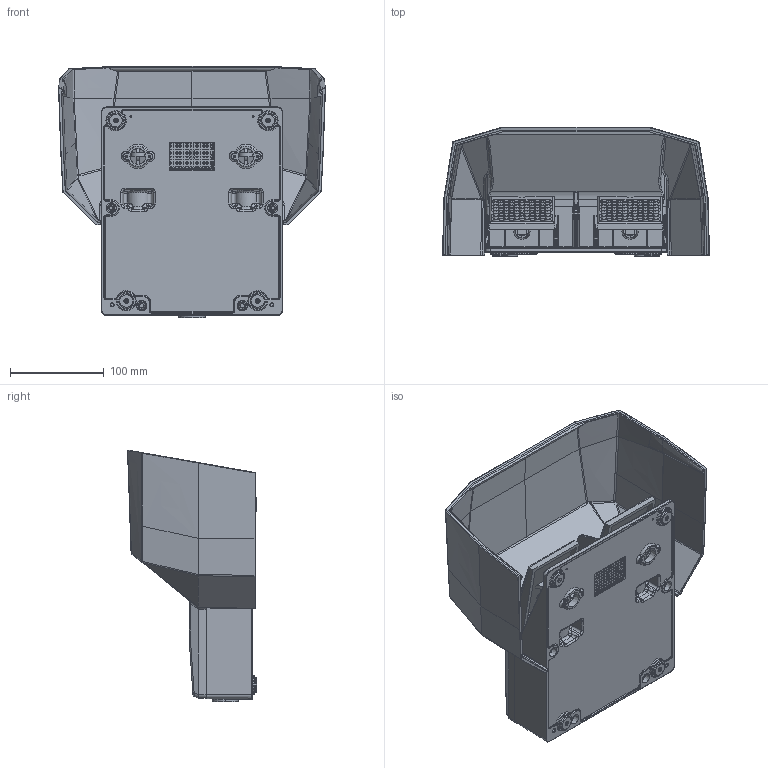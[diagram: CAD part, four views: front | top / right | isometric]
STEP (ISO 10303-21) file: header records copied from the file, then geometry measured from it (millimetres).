
FILE_DESCRIPTION((''),'2;1');
FILE_NAME('82205001','2011-05-09T',('SHarbsmeier'),(''),'PRO/ENGINEER BY PARAMETRIC TECHNOLOGY CORPORATION, 2007030','PRO/ENGINEER BY PARAMETRIC TECHNOLOGY CORPORATION, 2007030','');
FILE_SCHEMA(('CONFIG_CONTROL_DESIGN'));
Products named in the file (1): 82205001
Bounding box: 283.95 x 137.28 x 267.74 mm (x, y, z)
Surface area: 372828.1 mm2 (no closed solid volume)
Topology: 0 solids, 134 shells, 1979 faces, 6992 edges, 5205 vertices
Faces by surface type: plane 812, cylinder 400, bspline 367, cone 230, torus 104, sphere 66
Entity records: 90410 total; most frequent: CARTESIAN_POINT 33489, ORIENTED_EDGE 10973, DIRECTION 10831, EDGE_CURVE 6976, VERTEX_POINT 5205, VECTOR 4339, LINE 4339, AXIS2_PLACEMENT_3D 3246
